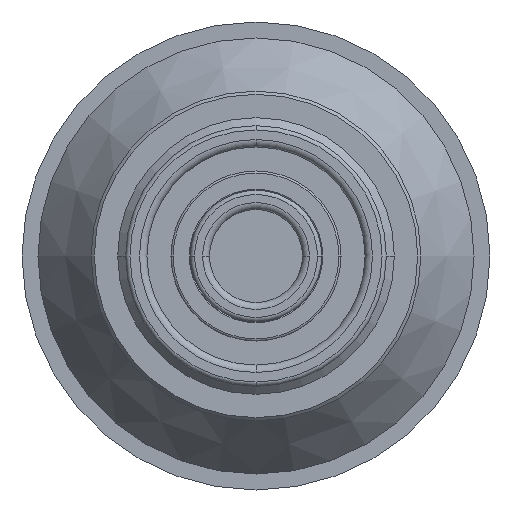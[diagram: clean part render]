
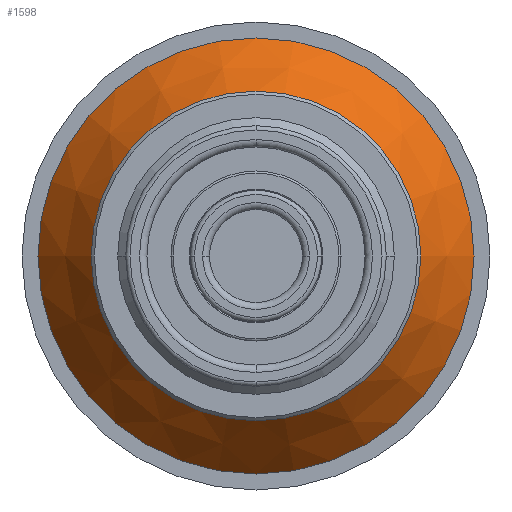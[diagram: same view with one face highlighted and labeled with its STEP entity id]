
A CAD part, front view. The second image highlights one B-rep face of the part: STEP entity #1598.
In plain terms, the highlighted conical face has half-angle 36 degrees and reference radius 20.5 mm.
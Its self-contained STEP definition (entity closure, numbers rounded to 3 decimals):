
#1089=FACE_BOUND('',#1956,.T.);
#1090=FACE_BOUND('',#1957,.T.);
#1279=CONICAL_SURFACE('',#3725,20.5,36.);
#1598=ADVANCED_FACE('',(#1089,#1090),#1279,.T.);
#1956=EDGE_LOOP('',(#2558));
#1957=EDGE_LOOP('',(#2559));
#2558=ORIENTED_EDGE('',*,*,#3161,.F.);
#2559=ORIENTED_EDGE('',*,*,#3160,.T.);
#2842=VERTEX_POINT('',#5577);
#2843=VERTEX_POINT('',#5580);
#3160=EDGE_CURVE('',#2842,#2842,#3384,.T.);
#3161=EDGE_CURVE('',#2843,#2843,#3385,.T.);
#3384=CIRCLE('',#3722,20.5);
#3385=CIRCLE('',#3724,15.414);
#3722=AXIS2_PLACEMENT_3D('',#5576,#4475,#4476);
#3724=AXIS2_PLACEMENT_3D('',#5579,#4479,#4480);
#3725=AXIS2_PLACEMENT_3D('',#5581,#4481,#4482);
#4475=DIRECTION('',(0.,0.,-1.));
#4476=DIRECTION('',(-1.,0.,0.));
#4479=DIRECTION('',(0.,0.,-1.));
#4480=DIRECTION('',(-1.,0.,0.));
#4481=DIRECTION('',(0.,0.,1.));
#4482=DIRECTION('',(-1.,0.,0.));
#5576=CARTESIAN_POINT('',(0.,0.,12.));
#5577=CARTESIAN_POINT('',(-20.5,0.,12.));
#5579=CARTESIAN_POINT('',(0.,0.,5.));
#5580=CARTESIAN_POINT('',(-15.414,0.,5.));
#5581=CARTESIAN_POINT('',(0.,0.,12.));
